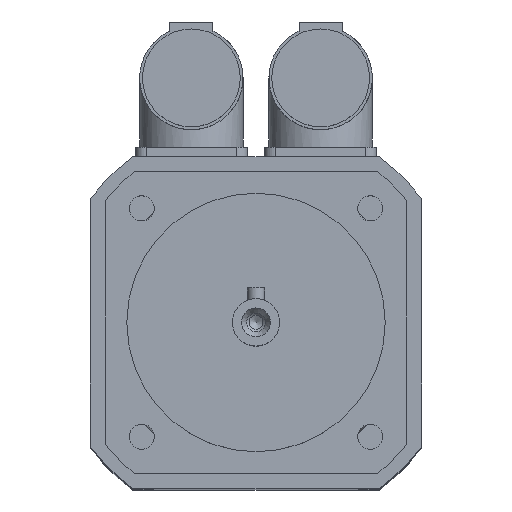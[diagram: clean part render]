
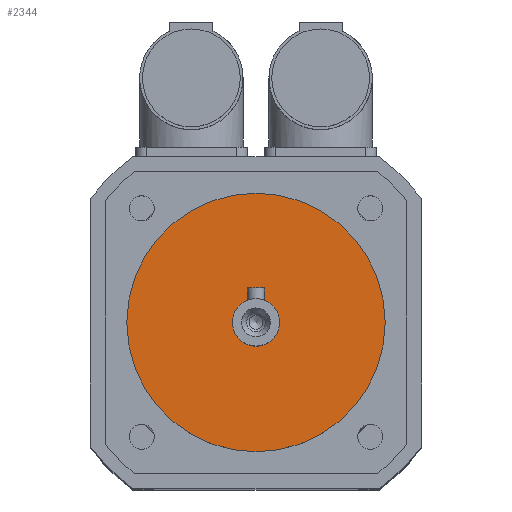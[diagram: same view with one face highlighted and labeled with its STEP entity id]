
A CAD part, top view. The second image highlights one B-rep face of the part: STEP entity #2344.
In plain terms, the highlighted planar face has unit normal (0, 0, 1).
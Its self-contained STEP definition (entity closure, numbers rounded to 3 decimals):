
#472=PLANE('',#2526);
#587=FACE_BOUND('',#805,.T.);
#653=FACE_OUTER_BOUND('',#804,.T.);
#804=EDGE_LOOP('',(#1839));
#805=EDGE_LOOP('',(#1840));
#951=CIRCLE('',#2525,5.5);
#952=CIRCLE('',#2527,30.);
#1114=VERTEX_POINT('',#3730);
#1115=VERTEX_POINT('',#3733);
#1385=EDGE_CURVE('',#1114,#1114,#951,.T.);
#1386=EDGE_CURVE('',#1115,#1115,#952,.T.);
#1839=ORIENTED_EDGE('',*,*,#1386,.F.);
#1840=ORIENTED_EDGE('',*,*,#1385,.T.);
#2344=ADVANCED_FACE('',(#653,#587),#472,.T.);
#2525=AXIS2_PLACEMENT_3D('',#3731,#2946,#2947);
#2526=AXIS2_PLACEMENT_3D('',#3732,#2948,#2949);
#2527=AXIS2_PLACEMENT_3D('',#3734,#2950,#2951);
#2946=DIRECTION('center_axis',(0.,0.,-1.));
#2947=DIRECTION('ref_axis',(1.,0.,0.));
#2948=DIRECTION('center_axis',(0.,0.,1.));
#2949=DIRECTION('ref_axis',(1.,0.,0.));
#2950=DIRECTION('center_axis',(0.,0.,-1.));
#2951=DIRECTION('ref_axis',(1.,0.,0.));
#3730=CARTESIAN_POINT('',(0.,5.5,163.5));
#3731=CARTESIAN_POINT('Origin',(0.,0.,163.5));
#3732=CARTESIAN_POINT('Origin',(0.,30.,163.5));
#3733=CARTESIAN_POINT('',(0.,30.,163.5));
#3734=CARTESIAN_POINT('Origin',(0.,0.,163.5));
